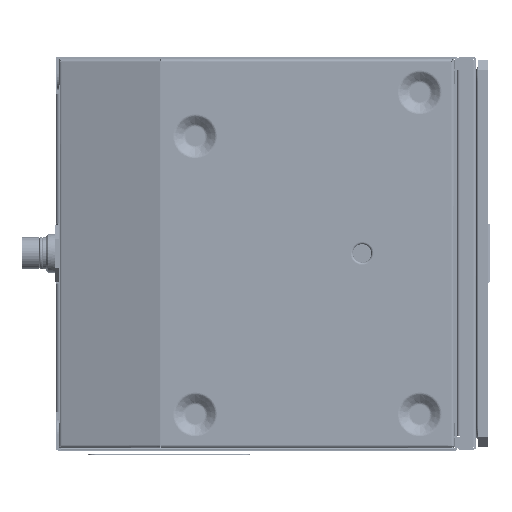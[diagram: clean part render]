
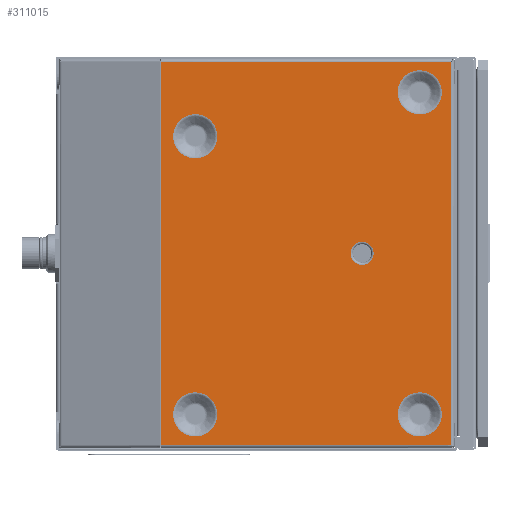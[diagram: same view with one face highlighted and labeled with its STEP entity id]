
A CAD part, front view. The second image highlights one B-rep face of the part: STEP entity #311015.
In plain terms, the highlighted planar face has unit normal (0, -1, 0).
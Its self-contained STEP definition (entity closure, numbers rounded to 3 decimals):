
#3687 = DIRECTION ( 'NONE',  ( 1., 0., 0. ) ) ;
#5269 = DIRECTION ( 'NONE',  ( 0., 0., -1. ) ) ;
#7048 = DIRECTION ( 'NONE',  ( 0., 0., 1. ) ) ;
#7896 = FACE_BOUND ( 'NONE', #366697, .T. ) ;
#10408 = CIRCLE ( 'NONE', #288848, 7.493 ) ;
#13949 = VECTOR ( 'NONE', #133169, 1000. ) ;
#15176 = DIRECTION ( 'NONE',  ( 0., 0., -1. ) ) ;
#17500 = AXIS2_PLACEMENT_3D ( 'NONE', #377980, #192736, #7048 ) ;
#19413 = CARTESIAN_POINT ( 'NONE',  ( 64.143, -1.143, -7.493 ) ) ;
#22293 = AXIS2_PLACEMENT_3D ( 'NONE', #344744, #159424, #375799 ) ;
#24280 = CIRCLE ( 'NONE', #171899, 14.374 ) ;
#24305 = VERTEX_POINT ( 'NONE', #257218 ) ;
#26030 = CARTESIAN_POINT ( 'NONE',  ( -67., -1.143, 124.563 ) ) ;
#32638 = DIRECTION ( 'NONE',  ( 0., -1., 0. ) ) ;
#49693 = CIRCLE ( 'NONE', #387603, 14.374 ) ;
#51926 = CIRCLE ( 'NONE', #396174, 14.374 ) ;
#52524 = ORIENTED_EDGE ( 'NONE', *, *, #169327, .F. ) ;
#54434 = AXIS2_PLACEMENT_3D ( 'NONE', #26030, #273697, #88400 ) ;
#55444 = VECTOR ( 'NONE', #173728, 1000. ) ;
#55731 = VERTEX_POINT ( 'NONE', #254511 ) ;
#66053 = CARTESIAN_POINT ( 'NONE',  ( -67., -1.143, -124.563 ) ) ;
#66476 = DIRECTION ( 'NONE',  ( 0., 1., 0. ) ) ;
#66505 = AXIS2_PLACEMENT_3D ( 'NONE', #180072, #396524, #211187 ) ;
#69170 = VERTEX_POINT ( 'NONE', #98071 ) ;
#69391 = AXIS2_PLACEMENT_3D ( 'NONE', #159173, #375573, #190322 ) ;
#79015 = CIRCLE ( 'NONE', #161793, 14.374 ) ;
#80716 = ORIENTED_EDGE ( 'NONE', *, *, #210230, .T. ) ;
#81663 = CARTESIAN_POINT ( 'NONE',  ( -66.886, -1.143, 124.563 ) ) ;
#81916 = EDGE_CURVE ( 'NONE', #294663, #115119, #24280, .T. ) ;
#84474 = CARTESIAN_POINT ( 'NONE',  ( 122.206, -1.143, -124.563 ) ) ;
#85817 = AXIS2_PLACEMENT_3D ( 'NONE', #218144, #32638, #249187 ) ;
#88033 = EDGE_CURVE ( 'NONE', #321614, #55731, #195669, .T. ) ;
#88400 = DIRECTION ( 'NONE',  ( 0., 0., 1. ) ) ;
#89139 = CIRCLE ( 'NONE', #17500, 7.493 ) ;
#90454 = FACE_BOUND ( 'NONE', #259481, .T. ) ;
#91187 = EDGE_LOOP ( 'NONE', ( #374574, #171332 ) ) ;
#92703 = CIRCLE ( 'NONE', #66505, 14.374 ) ;
#98071 = CARTESIAN_POINT ( 'NONE',  ( -66.886, -1.143, 124.563 ) ) ;
#100762 = VERTEX_POINT ( 'NONE', #327584 ) ;
#101648 = EDGE_CURVE ( 'NONE', #69170, #394954, #131861, .T. ) ;
#102098 = CARTESIAN_POINT ( 'NONE',  ( 122.206, -1.143, 124.563 ) ) ;
#110192 = VERTEX_POINT ( 'NONE', #350348 ) ;
#111723 = DIRECTION ( 'NONE',  ( 0., -1., 0. ) ) ;
#115119 = VERTEX_POINT ( 'NONE', #368972 ) ;
#115442 = VERTEX_POINT ( 'NONE', #19413 ) ;
#117047 = EDGE_CURVE ( 'NONE', #110192, #194790, #92703, .T. ) ;
#121171 = DIRECTION ( 'NONE',  ( 0., -1., 0. ) ) ;
#122986 = ORIENTED_EDGE ( 'NONE', *, *, #349132, .F. ) ;
#129545 = EDGE_LOOP ( 'NONE', ( #150611, #181149 ) ) ;
#131861 = LINE ( 'NONE', #286934, #204573 ) ;
#133169 = DIRECTION ( 'NONE',  ( 0., 0., -1. ) ) ;
#134356 = EDGE_CURVE ( 'NONE', #115119, #294663, #51926, .T. ) ;
#135649 = ORIENTED_EDGE ( 'NONE', *, *, #101648, .F. ) ;
#150611 = ORIENTED_EDGE ( 'NONE', *, *, #391864, .F. ) ;
#159173 = CARTESIAN_POINT ( 'NONE',  ( 101.6, -1.143, -104.775 ) ) ;
#159424 = DIRECTION ( 'NONE',  ( 0., -1., 0. ) ) ;
#161359 = LINE ( 'NONE', #66053, #325902 ) ;
#161793 = AXIS2_PLACEMENT_3D ( 'NONE', #386055, #200743, #15176 ) ;
#169327 = EDGE_CURVE ( 'NONE', #394954, #379429, #323900, .T. ) ;
#171332 = ORIENTED_EDGE ( 'NONE', *, *, #81916, .F. ) ;
#171899 = AXIS2_PLACEMENT_3D ( 'NONE', #376119, #190849, #5269 ) ;
#172271 = CIRCLE ( 'NONE', #85817, 14.374 ) ;
#173728 = DIRECTION ( 'NONE',  ( 0., 0., -1. ) ) ;
#180072 = CARTESIAN_POINT ( 'NONE',  ( 101.6, -1.143, 104.775 ) ) ;
#181149 = ORIENTED_EDGE ( 'NONE', *, *, #117047, .F. ) ;
#184946 = CARTESIAN_POINT ( 'NONE',  ( -66.886, -1.143, -124.563 ) ) ;
#190322 = DIRECTION ( 'NONE',  ( 0., 0., -1. ) ) ;
#190849 = DIRECTION ( 'NONE',  ( 0., -1., 0. ) ) ;
#192736 = DIRECTION ( 'NONE',  ( 0., 1., 0. ) ) ;
#194790 = VERTEX_POINT ( 'NONE', #396526 ) ;
#195244 = CARTESIAN_POINT ( 'NONE',  ( -44.45, -1.143, -90.401 ) ) ;
#195669 = CIRCLE ( 'NONE', #69391, 14.374 ) ;
#200743 = DIRECTION ( 'NONE',  ( 0., -1., 0. ) ) ;
#204573 = VECTOR ( 'NONE', #231479, 1000. ) ;
#210230 = EDGE_CURVE ( 'NONE', #115442, #100762, #10408, .T. ) ;
#211187 = DIRECTION ( 'NONE',  ( 0., 0., -1. ) ) ;
#218144 = CARTESIAN_POINT ( 'NONE',  ( 101.6, -1.143, 104.775 ) ) ;
#231479 = DIRECTION ( 'NONE',  ( 1., 0., 0. ) ) ;
#241886 = EDGE_LOOP ( 'NONE', ( #266176, #52524, #135649, #304433 ) ) ;
#242680 = PLANE ( 'NONE',  #54434 ) ;
#245344 = FACE_BOUND ( 'NONE', #390203, .T. ) ;
#249187 = DIRECTION ( 'NONE',  ( 0., 0., -1. ) ) ;
#251885 = CARTESIAN_POINT ( 'NONE',  ( 64.143, -1.143, 0. ) ) ;
#254511 = CARTESIAN_POINT ( 'NONE',  ( 101.6, -1.143, -90.401 ) ) ;
#255032 = FACE_OUTER_BOUND ( 'NONE', #241886, .T. ) ;
#257218 = CARTESIAN_POINT ( 'NONE',  ( -44.45, -1.143, 90.574 ) ) ;
#259481 = EDGE_LOOP ( 'NONE', ( #325708, #261053 ) ) ;
#261053 = ORIENTED_EDGE ( 'NONE', *, *, #317891, .F. ) ;
#263282 = CARTESIAN_POINT ( 'NONE',  ( 122.206, -1.143, 124.563 ) ) ;
#266176 = ORIENTED_EDGE ( 'NONE', *, *, #387590, .T. ) ;
#273697 = DIRECTION ( 'NONE',  ( 0., 1., 0. ) ) ;
#282673 = CARTESIAN_POINT ( 'NONE',  ( -44.45, -1.143, 61.826 ) ) ;
#282918 = DIRECTION ( 'NONE',  ( 0., 0., 1. ) ) ;
#286934 = CARTESIAN_POINT ( 'NONE',  ( -67., -1.143, 124.563 ) ) ;
#288547 = CIRCLE ( 'NONE', #22293, 14.374 ) ;
#288848 = AXIS2_PLACEMENT_3D ( 'NONE', #251885, #66476, #282918 ) ;
#294663 = VERTEX_POINT ( 'NONE', #195244 ) ;
#296999 = CARTESIAN_POINT ( 'NONE',  ( 101.6, -1.143, -104.775 ) ) ;
#304433 = ORIENTED_EDGE ( 'NONE', *, *, #325071, .T. ) ;
#306487 = CARTESIAN_POINT ( 'NONE',  ( -44.45, -1.143, -104.775 ) ) ;
#307366 = ORIENTED_EDGE ( 'NONE', *, *, #383457, .F. ) ;
#309927 = CARTESIAN_POINT ( 'NONE',  ( 101.6, -1.143, -119.149 ) ) ;
#310634 = VERTEX_POINT ( 'NONE', #184946 ) ;
#311015 = ADVANCED_FACE ( 'NONE', ( #7896, #90454, #356736, #327573, #245344, #255032 ), #242680, .F. ) ;
#317891 = EDGE_CURVE ( 'NONE', #55731, #321614, #49693, .T. ) ;
#321614 = VERTEX_POINT ( 'NONE', #309927 ) ;
#323900 = LINE ( 'NONE', #102098, #13949 ) ;
#325071 = EDGE_CURVE ( 'NONE', #69170, #310634, #374949, .T. ) ;
#325708 = ORIENTED_EDGE ( 'NONE', *, *, #88033, .F. ) ;
#325902 = VECTOR ( 'NONE', #3687, 1000. ) ;
#327573 = FACE_BOUND ( 'NONE', #129545, .T. ) ;
#327584 = CARTESIAN_POINT ( 'NONE',  ( 64.143, -1.143, 7.493 ) ) ;
#328157 = DIRECTION ( 'NONE',  ( 0., 0., -1. ) ) ;
#332186 = VERTEX_POINT ( 'NONE', #282673 ) ;
#337637 = DIRECTION ( 'NONE',  ( 0., 0., -1. ) ) ;
#344744 = CARTESIAN_POINT ( 'NONE',  ( -44.45, -1.143, 76.2 ) ) ;
#349132 = EDGE_CURVE ( 'NONE', #24305, #332186, #79015, .T. ) ;
#350348 = CARTESIAN_POINT ( 'NONE',  ( 101.6, -1.143, 119.149 ) ) ;
#356736 = FACE_BOUND ( 'NONE', #91187, .T. ) ;
#366697 = EDGE_LOOP ( 'NONE', ( #383567, #80716 ) ) ;
#368972 = CARTESIAN_POINT ( 'NONE',  ( -44.45, -1.143, -119.149 ) ) ;
#374574 = ORIENTED_EDGE ( 'NONE', *, *, #134356, .F. ) ;
#374949 = LINE ( 'NONE', #81663, #55444 ) ;
#375573 = DIRECTION ( 'NONE',  ( 0., -1., 0. ) ) ;
#375799 = DIRECTION ( 'NONE',  ( 0., 0., -1. ) ) ;
#376119 = CARTESIAN_POINT ( 'NONE',  ( -44.45, -1.143, -104.775 ) ) ;
#377980 = CARTESIAN_POINT ( 'NONE',  ( 64.143, -1.143, 0. ) ) ;
#379429 = VERTEX_POINT ( 'NONE', #84474 ) ;
#383457 = EDGE_CURVE ( 'NONE', #332186, #24305, #288547, .T. ) ;
#383567 = ORIENTED_EDGE ( 'NONE', *, *, #386731, .T. ) ;
#386055 = CARTESIAN_POINT ( 'NONE',  ( -44.45, -1.143, 76.2 ) ) ;
#386731 = EDGE_CURVE ( 'NONE', #100762, #115442, #89139, .T. ) ;
#387590 = EDGE_CURVE ( 'NONE', #310634, #379429, #161359, .T. ) ;
#387603 = AXIS2_PLACEMENT_3D ( 'NONE', #296999, #111723, #328157 ) ;
#390203 = EDGE_LOOP ( 'NONE', ( #307366, #122986 ) ) ;
#391864 = EDGE_CURVE ( 'NONE', #194790, #110192, #172271, .T. ) ;
#394954 = VERTEX_POINT ( 'NONE', #263282 ) ;
#396174 = AXIS2_PLACEMENT_3D ( 'NONE', #306487, #121171, #337637 ) ;
#396524 = DIRECTION ( 'NONE',  ( 0., -1., 0. ) ) ;
#396526 = CARTESIAN_POINT ( 'NONE',  ( 101.6, -1.143, 90.401 ) ) ;
